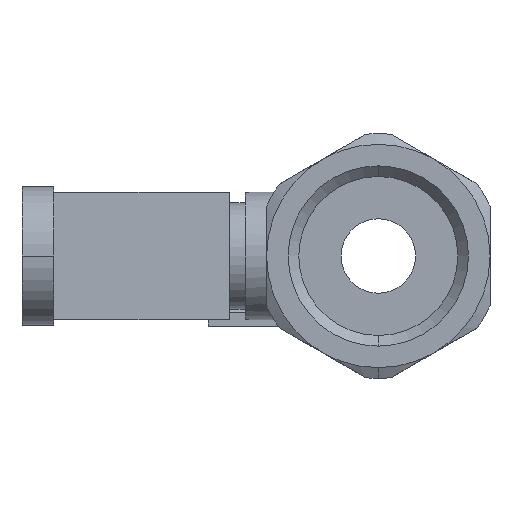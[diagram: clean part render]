
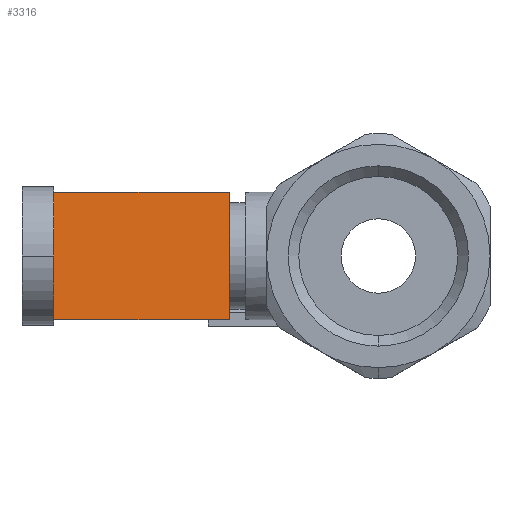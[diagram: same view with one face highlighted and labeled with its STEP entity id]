
A CAD part, left-side view. The second image highlights one B-rep face of the part: STEP entity #3316.
In plain terms, the highlighted planar face has unit normal (-0.707, -0.707, 0).
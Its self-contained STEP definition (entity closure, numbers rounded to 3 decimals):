
#14 = VECTOR ( 'NONE', #2873, 1000. ) ;
#163 = VERTEX_POINT ( 'NONE', #2552 ) ;
#170 = ORIENTED_EDGE ( 'NONE', *, *, #1774, .T. ) ;
#344 = VERTEX_POINT ( 'NONE', #1244 ) ;
#346 = CARTESIAN_POINT ( 'NONE',  ( -27., 31., 6. ) ) ;
#867 = CARTESIAN_POINT ( 'NONE',  ( -27., 31., -6. ) ) ;
#916 = LINE ( 'NONE', #346, #1733 ) ;
#1046 = CARTESIAN_POINT ( 'NONE',  ( -27., 31., 6. ) ) ;
#1062 = ORIENTED_EDGE ( 'NONE', *, *, #3208, .F. ) ;
#1106 = VERTEX_POINT ( 'NONE', #3684 ) ;
#1117 = CARTESIAN_POINT ( 'NONE',  ( -27., 31., 6. ) ) ;
#1185 = CARTESIAN_POINT ( 'NONE',  ( -10., 14., 6. ) ) ;
#1244 = CARTESIAN_POINT ( 'NONE',  ( -27., 31., -6. ) ) ;
#1286 = DIRECTION ( 'NONE',  ( 0., 0., -1. ) ) ;
#1324 = CARTESIAN_POINT ( 'NONE',  ( -27., 31., 6. ) ) ;
#1389 = EDGE_LOOP ( 'NONE', ( #2803, #3698, #1062, #170 ) ) ;
#1430 = DIRECTION ( 'NONE',  ( -0.707, 0.707, 0. ) ) ;
#1733 = VECTOR ( 'NONE', #1286, 1000. ) ;
#1774 = EDGE_CURVE ( 'NONE', #3914, #344, #916, .T. ) ;
#1803 = DIRECTION ( 'NONE',  ( 0.707, -0.707, 0. ) ) ;
#2060 = VECTOR ( 'NONE', #1803, 1000. ) ;
#2162 = VECTOR ( 'NONE', #2698, 1000. ) ;
#2380 = FACE_OUTER_BOUND ( 'NONE', #1389, .T. ) ;
#2476 = LINE ( 'NONE', #1046, #14 ) ;
#2552 = CARTESIAN_POINT ( 'NONE',  ( -10., 14., 6. ) ) ;
#2698 = DIRECTION ( 'NONE',  ( 0., 0., -1. ) ) ;
#2803 = ORIENTED_EDGE ( 'NONE', *, *, #2927, .T. ) ;
#2818 = AXIS2_PLACEMENT_3D ( 'NONE', #1117, #3238, #1430 ) ;
#2872 = LINE ( 'NONE', #867, #2060 ) ;
#2873 = DIRECTION ( 'NONE',  ( 0.707, -0.707, 0. ) ) ;
#2909 = EDGE_CURVE ( 'NONE', #163, #1106, #3774, .T. ) ;
#2922 = PLANE ( 'NONE',  #2818 ) ;
#2927 = EDGE_CURVE ( 'NONE', #344, #1106, #2872, .T. ) ;
#3208 = EDGE_CURVE ( 'NONE', #3914, #163, #2476, .T. ) ;
#3238 = DIRECTION ( 'NONE',  ( 0.707, 0.707, 0. ) ) ;
#3316 = ADVANCED_FACE ( 'NONE', ( #2380 ), #2922, .F. ) ;
#3684 = CARTESIAN_POINT ( 'NONE',  ( -10., 14., -6. ) ) ;
#3698 = ORIENTED_EDGE ( 'NONE', *, *, #2909, .F. ) ;
#3774 = LINE ( 'NONE', #1185, #2162 ) ;
#3914 = VERTEX_POINT ( 'NONE', #1324 ) ;
